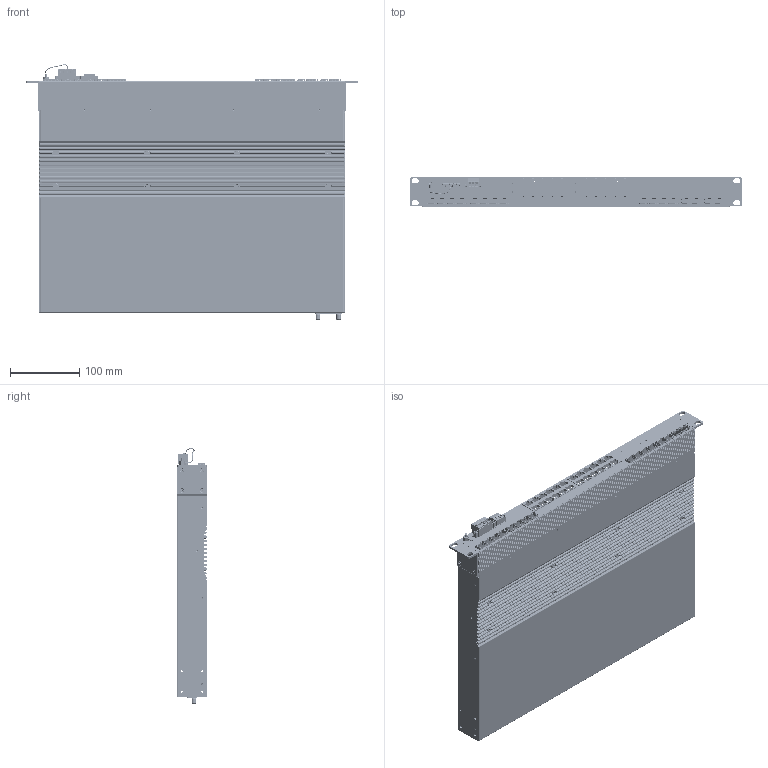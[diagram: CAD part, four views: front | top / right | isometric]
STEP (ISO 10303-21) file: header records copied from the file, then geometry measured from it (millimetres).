
FILE_DESCRIPTION(('TFLEX Exchange Step'),'2;1');
FILE_NAME('STK-EX-01-4000-TP36HH4X12G24T.stp', '2025-01-30T14:50:04+03:00',('Yuriy Romanov'),('Unknown organisation'),'TFLEX Exchange 2023.2','T-FLEX CAD','Unknown authorisation');
FILE_SCHEMA( ('AUTOMOTIVE_DESIGN { 1 0 10303 214 1 1 1 1 }') );
Length unit declared in the file: millimetre
Products named in the file (1): STK-EX-01-4000-TP36HH4X12G24T
Bounding box: 480 x 43.8 x 369.24 mm (x, y, z)
Volume: 532675.6 mm3; surface area: 920102.6 mm2
Topology: 239 solids, 240 shells, 13704 faces, 40134 edges, 26572 vertices
Faces by surface type: plane 7817, cylinder 5264, cone 465, sphere 79, torus 42, bspline 35, extrusion 2
Full cylindrical faces by diameter (mm): 0.457 x1, 1 x16, 2 x205, 2.459 x2, 2.5 x188, 3 x54, 3.5 x209, 3.8 x2, 3.85 x3, 3.9 x2, 3.95 x6, 4 x21, 4.2 x28, 4.4 x2, 4.5 x1, 5 x6, 5.247 x2, 5.4 x46, 5.5 x25, 6 x8, 6.3 x24, 6.8 x3, 8 x3, 10 x1
Entity records: 472236 total; most frequent: CARTESIAN_POINT 96483, ORIENTED_EDGE 80052, DIRECTION 77851, EDGE_CURVE 40026, VERTEX_POINT 26572, AXIS2_PLACEMENT_3D 26032, VECTOR 25787, LINE 25785
